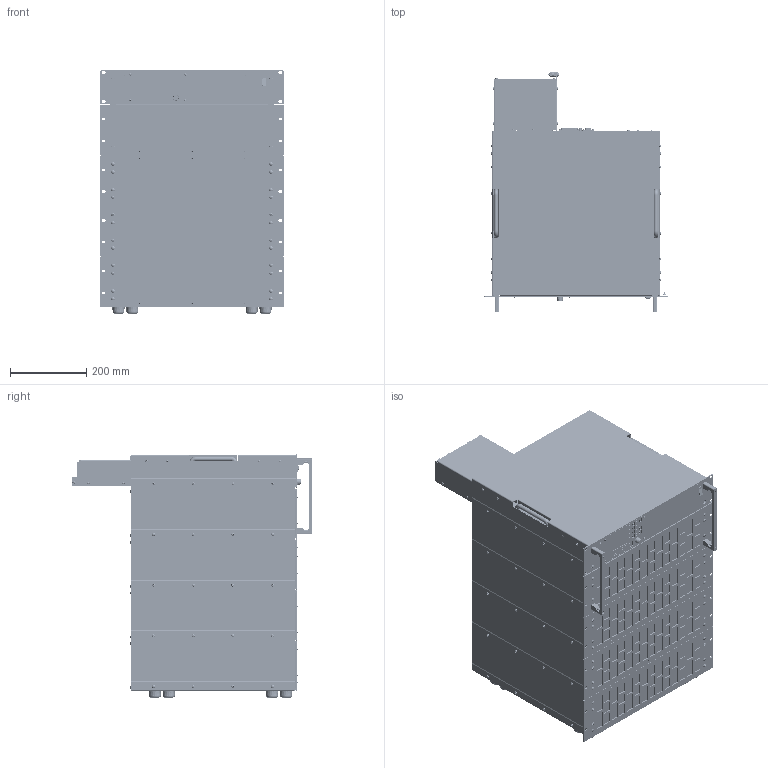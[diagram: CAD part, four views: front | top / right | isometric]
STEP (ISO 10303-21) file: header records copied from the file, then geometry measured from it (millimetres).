
FILE_DESCRIPTION(('STEP AP214'),'1');
FILE_NAME('PLI_M31_19Z_14HE_FKS25_10_SM10_BRB_3D_01.step','2019-03-11T13:53:23',(' '),(' '),'Spatial InterOp 3D',' ',' ');
FILE_SCHEMA(('AUTOMOTIVE_DESIGN { 1 0 10303 214 1 1 1 1 }'));
Length unit declared in the file: millimetre
Products named in the file (1): 1
Bounding box: 482.6 x 631.75 x 639.43 mm (x, y, z)
Volume: 39007776.1 mm3; surface area: 6989683.1 mm2
Topology: 342 solids, 2030 shells, 22819 faces, 63765 edges, 43385 vertices
Faces by surface type: plane 12078, cone 6354, cylinder 3731, sphere 352, torus 276, bspline 26, extrusion 2
Entity records: 940186 total; most frequent: CARTESIAN_POINT 137096, DIRECTION 134686, ORIENTED_EDGE 115208, EDGE_CURVE 62824, AXIS2_PLACEMENT_3D 46716, VERTEX_POINT 42238, VECTOR 41254, LINE 41252
